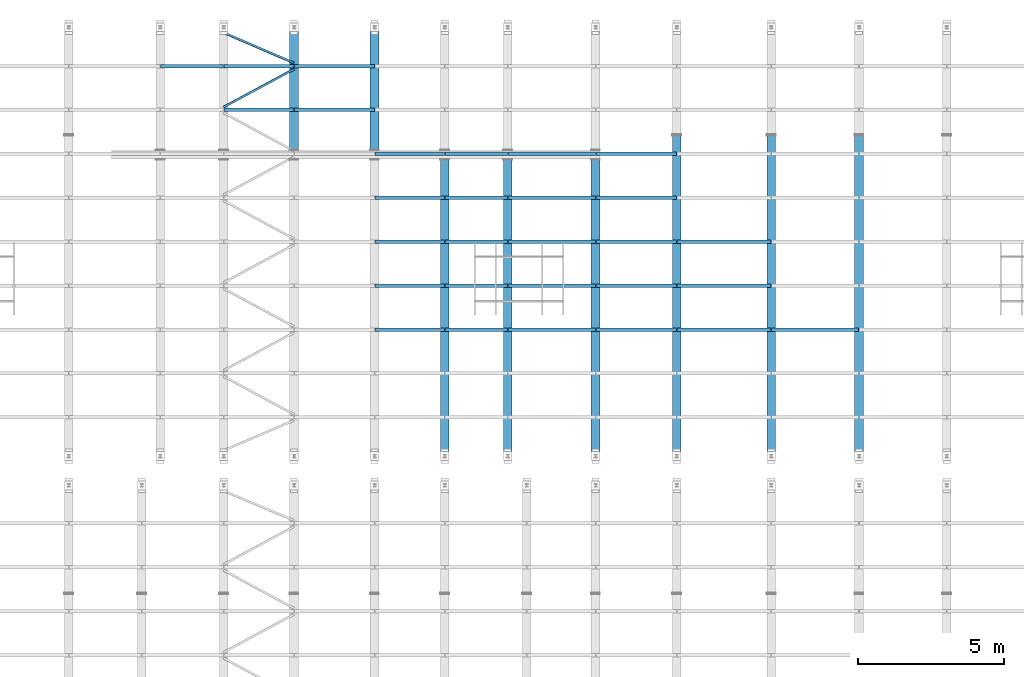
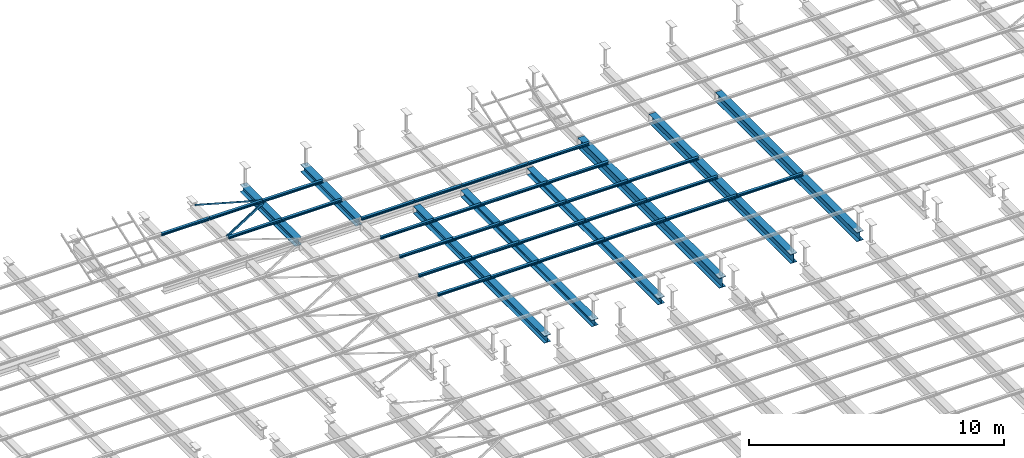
# One storey, part 84 of 139: 39 beams.
"""IFC2X3 building model written with IfcOpenShell, lengths in metres."""

from ifc_helpers import new_model, entity, si_unit, converted_unit, derived_unit, frame, origin, place, context, subcontext, project, spatial, polyline, outline, extrude, material, element, save


model = new_model("IFC2X3")

# Units and contexts
model_context = context("Model", 3, precision=1e-05, world=origin())
body_context = subcontext(model_context, "Body", "Model", "MODEL_VIEW")
ifc_project = project(units=[si_unit("LENGTHUNIT", "METRE"), si_unit("AREAUNIT", "SQUARE_METRE"), si_unit("VOLUMEUNIT", "CUBIC_METRE"), si_unit("MASSUNIT", "GRAM", prefix="KILO"), converted_unit("PLANEANGLEUNIT", "DEGREE", entity("IfcPlaneAngleMeasure", 0.0174532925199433), si_unit("PLANEANGLEUNIT", "RADIAN"), dimensions=[0, 0, 0, 0, 0, 0, 0]), derived_unit("THERMALTRANSMITTANCEUNIT", [(si_unit("POWERUNIT", "WATT"), 1), (si_unit("THERMODYNAMICTEMPERATUREUNIT", "KELVIN"), -1), (si_unit("LENGTHUNIT", "METRE"), -2)]), derived_unit("VOLUMETRICFLOWRATEUNIT", [(si_unit("LENGTHUNIT", "METRE"), 3), (converted_unit("TIMEUNIT", "hour", entity("IfcTimeMeasure", 3600.0), si_unit("TIMEUNIT", "SECOND"), dimensions=[0, 0, 1, 0, 0, 0, 0]), -1), (si_unit("LENGTHUNIT", "METRE"), -1)])], contexts=[model_context])

# Site, building, storey
site_placement = place(None, origin())
site = spatial("IfcSite", under=ifc_project, at=site_placement, Name="TWP_Speiseverteilzentrum SBW VZ II", CompositionType="ELEMENT")
building_placement = place(site_placement, origin())
building = spatial("IfcBuilding", under=site, at=building_placement, Name="Speiseverteilzentrum SBW VZ II", CompositionType="ELEMENT")
storey_placement = place(building_placement, frame((0.0, 0.0, 7.1307)))
storey = spatial("IfcBuildingStorey", under=building, at=storey_placement, Name="Wartung_FFB", CompositionType="ELEMENT", Elevation=7.1307)

# Beams
ifc_material_1 = material(Name="S235")
beam_1_placement = place(storey_placement, frame((86.7500000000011, 85.7000000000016, -0.365), z_axis=(0.0, 0.0, 1.0), x_axis=(-1.0, 0.0, 0.0)))
element("IfcBeam", 1, at=beam_1_placement, inside=storey, material=ifc_material_1, Name="Stahlträger", context=body_context, shape_type="SweptSolid", body=[
    extrude(outline(polyline([(-0.15, 0.175), (-0.15, 0.1575), (-0.00500000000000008, 0.1575), (-0.0050000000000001, -0.1575), (-0.15, -0.1575), (-0.15, -0.175), (0.15, -0.175), (0.15, -0.1575), (0.0049999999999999, -0.1575), (0.00499999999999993, 0.1575), (0.15, 0.1575), (0.15, 0.175), (-0.15, 0.175)])), frame((0.0, 0.0, 0.0), z_axis=(0.0, 1.0, 0.0), x_axis=(-1.0, 0.0, 0.0)), (0.0, 0.0, 1.0), 4.32558461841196),
])
ifc_material_2 = material(Name="S235")
beam_2_placement = place(storey_placement, frame((89.5000000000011, 85.7000000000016, -0.365), z_axis=(0.0, 0.0, 1.0), x_axis=(-1.0, 0.0, 0.0)))
element("IfcBeam", 2, at=beam_2_placement, inside=storey, material=ifc_material_2, Name="Stahlträger", context=body_context, shape_type="SweptSolid", body=[
    extrude(outline(polyline([(-0.15, 0.175), (-0.15, 0.1575), (-0.00500000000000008, 0.1575), (-0.0050000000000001, -0.1575), (-0.15, -0.1575), (-0.15, -0.175), (0.15, -0.175), (0.15, -0.1575), (0.0049999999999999, -0.1575), (0.00499999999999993, 0.1575), (0.15, 0.1575), (0.15, 0.175), (-0.15, 0.175)])), frame((0.0, 0.0, 0.0), z_axis=(0.0, 1.0, 0.0), x_axis=(-1.0, 0.0, 0.0)), (0.0, 0.0, 1.0), 4.32558461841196),
])
ifc_material_3 = material(Name="S235")
beam_3_placement = place(storey_placement, frame((91.9000000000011, 81.0244153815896, -0.365), z_axis=(0.0, 0.0, 1.0), x_axis=(-1.0, 0.0, 0.0)))
element("IfcBeam", 3, at=beam_3_placement, inside=storey, material=ifc_material_3, Name="Stahlträger", context=body_context, shape_type="SweptSolid", body=[
    extrude(outline(polyline([(-0.15, 0.175), (-0.15, 0.1575), (-0.00500000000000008, 0.1575), (-0.0050000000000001, -0.1575), (-0.15, -0.1575), (-0.15, -0.175), (0.15, -0.175), (0.15, -0.1575), (0.0049999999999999, -0.1575), (0.00499999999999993, 0.1575), (0.15, 0.1575), (0.15, 0.175), (-0.15, 0.175)])), frame((0.0, 0.0, 0.0), z_axis=(0.0, 1.0, 0.0), x_axis=(-1.0, 0.0, 0.0)), (0.0, 0.0, 1.0), 10.272162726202),
])
ifc_material_4 = material(Name="S235")
beam_4_placement = place(storey_placement, frame((94.0500000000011, 70.7522526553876, -0.345), z_axis=(0.0, 0.0, 1.0), x_axis=(1.0, -2.44929359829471e-16, 0.0)))
element("IfcBeam", 4, at=beam_4_placement, inside=storey, material=ifc_material_4, Name="Stahlträger", context=body_context, shape_type="SweptSolid", body=[
    extrude(outline(polyline([(-0.15, 0.155), (-0.15, 0.1395), (-0.00449999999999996, 0.1395), (-0.00449999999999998, -0.1395), (-0.15, -0.1395), (-0.15, -0.155), (0.15, -0.155), (0.15, -0.1395), (0.00450000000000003, -0.1395), (0.00450000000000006, 0.1395), (0.15, 0.1395), (0.15, 0.155), (-0.15, 0.155)])), frame((0.0, 0.0, 0.0), z_axis=(0.0, 1.0, 0.0), x_axis=(-1.0, 0.0, 0.0)), (0.0, 0.0, 1.0), 10.272162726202),
])
ifc_material_5 = material(Name="S235")
beam_5_placement = place(storey_placement, frame((97.0500000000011, 70.7522526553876, -0.345), z_axis=(0.0, 0.0, 1.0), x_axis=(1.0, -2.44929359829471e-16, 0.0)))
element("IfcBeam", 5, at=beam_5_placement, inside=storey, material=ifc_material_5, Name="Stahlträger", context=body_context, shape_type="SweptSolid", body=[
    extrude(outline(polyline([(-0.15, 0.155), (-0.15, 0.1395), (-0.00449999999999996, 0.1395), (-0.00449999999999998, -0.1395), (-0.15, -0.1395), (-0.15, -0.155), (0.15, -0.155), (0.15, -0.1395), (0.00450000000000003, -0.1395), (0.00450000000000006, 0.1395), (0.15, 0.1395), (0.15, 0.155), (-0.15, 0.155)])), frame((0.0, 0.0, 0.0), z_axis=(0.0, 1.0, 0.0), x_axis=(-1.0, 0.0, 0.0)), (0.0, 0.0, 1.0), 10.272162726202),
])
ifc_material_6 = material(Name="S235")
beam_6_placement = place(storey_placement, frame((103.050000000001, 70.7522526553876, -0.41), z_axis=(0.0, 0.0, 1.0), x_axis=(1.0, -2.44929359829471e-16, 0.0)))
element("IfcBeam", 6, at=beam_6_placement, inside=storey, material=ifc_material_6, Name="Stahlträger", context=body_context, shape_type="SweptSolid", body=[
    extrude(outline(polyline([(-0.15, 0.22), (-0.15, 0.199), (-0.00574999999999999, 0.199), (-0.00575000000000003, -0.199), (-0.15, -0.199), (-0.15, -0.22), (0.15, -0.22), (0.15, -0.199), (0.00574999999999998, -0.199), (0.00575000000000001, 0.199), (0.15, 0.199), (0.15, 0.22), (-0.15, 0.22)])), frame((0.0, 0.0, 0.0), z_axis=(0.0, 1.0, 0.0), x_axis=(-1.0, 0.0, 0.0)), (0.0, 0.0, 1.0), 11.090747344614),
])
ifc_material_7 = material(Name="S235")
beam_7_placement = place(storey_placement, frame((106.050000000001, 70.7522526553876, -0.41), z_axis=(0.0, 0.0, 1.0), x_axis=(1.0, -2.44929359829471e-16, 0.0)))
element("IfcBeam", 7, at=beam_7_placement, inside=storey, material=ifc_material_7, Name="Stahlträger", context=body_context, shape_type="SweptSolid", body=[
    extrude(outline(polyline([(-0.15, 0.22), (-0.15, 0.199), (-0.00574999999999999, 0.199), (-0.00575000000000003, -0.199), (-0.15, -0.199), (-0.15, -0.22), (0.15, -0.22), (0.15, -0.199), (0.00574999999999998, -0.199), (0.00575000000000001, 0.199), (0.15, 0.199), (0.15, 0.22), (-0.15, 0.22)])), frame((0.0, 0.0, 0.0), z_axis=(0.0, 1.0, 0.0), x_axis=(-1.0, 0.0, 0.0)), (0.0, 0.0, 1.0), 11.090747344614),
])
ifc_material_8 = material(Name="S235")
beam_8_placement = place(storey_placement, frame((99.8200000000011, 81.8430000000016, -0.435), z_axis=(0.0, 0.0, 1.0), x_axis=(-1.0, 0.0, 0.0)))
element("IfcBeam", 8, at=beam_8_placement, inside=storey, material=ifc_material_8, Name="Stahlträger", context=body_context, shape_type="SweptSolid", body=[
    extrude(outline(polyline([(-0.15, 0.245), (-0.15, 0.222), (-0.00599999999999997, 0.222), (-0.006, -0.222), (-0.15, -0.222), (-0.15, -0.245), (0.15, -0.245), (0.15, -0.222), (0.00600000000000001, -0.222), (0.00600000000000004, 0.222), (0.15, 0.222), (0.15, 0.245), (-0.15, 0.245)])), frame((0.0, 0.0, 0.0), z_axis=(0.0, 1.0, 0.0), x_axis=(-1.0, 0.0, 0.0)), (0.0, 0.0, 1.0), 11.090747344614),
])
ifc_material_9 = material(Name="S235")
beam_9_placement = place(storey_placement, frame((94.0600000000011, 81.2261263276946, -0.133), z_axis=(0.0, 0.0, 1.0), x_axis=(0.0, -1.0, 0.0)))
element("IfcBeam", 9, at=beam_9_placement, inside=storey, material=ifc_material_9, Name="Nebenträger", context=body_context, shape_type="SweptSolid", body=[
    extrude(outline(polyline([(-0.06, 0.0570000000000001), (-0.06, 0.0490000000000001), (-0.00249999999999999, 0.0490000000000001), (-0.0025, -0.0489999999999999), (-0.06, -0.0489999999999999), (-0.06, -0.0569999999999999), (0.06, -0.0569999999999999), (0.06, -0.0489999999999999), (0.0025, -0.0489999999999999), (0.00250000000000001, 0.0490000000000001), (0.06, 0.0490000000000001), (0.06, 0.0570000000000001), (-0.06, 0.0570000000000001)])), frame((0.0, 0.0, 0.0), z_axis=(0.0, 1.0, 0.0), x_axis=(-1.0, 0.0, 0.0)), (0.0, 0.0, 1.0), 2.98),
])
ifc_material_10 = material(Name="S235")
beam_10_placement = place(storey_placement, frame((94.0600000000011, 79.7261263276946, -0.133), z_axis=(0.0, 0.0, 1.0), x_axis=(0.0, -1.0, 0.0)))
element("IfcBeam", 10, at=beam_10_placement, inside=storey, material=ifc_material_10, Name="Nebenträger", context=body_context, shape_type="SweptSolid", body=[
    extrude(outline(polyline([(-0.06, 0.0570000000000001), (-0.06, 0.0490000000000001), (-0.00249999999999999, 0.0490000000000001), (-0.0025, -0.0489999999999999), (-0.06, -0.0489999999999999), (-0.06, -0.0569999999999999), (0.06, -0.0569999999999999), (0.06, -0.0489999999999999), (0.0025, -0.0489999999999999), (0.00250000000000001, 0.0490000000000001), (0.06, 0.0490000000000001), (0.06, 0.0570000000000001), (-0.06, 0.0570000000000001)])), frame((0.0, 0.0, 0.0), z_axis=(0.0, 1.0, 0.0), x_axis=(-1.0, 0.0, 0.0)), (0.0, 0.0, 1.0), 2.98),
])
ifc_material_11 = material(Name="S235")
beam_11_placement = place(storey_placement, frame((94.0600000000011, 78.2261263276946, -0.133), z_axis=(0.0, 0.0, 1.0), x_axis=(0.0, -1.0, 0.0)))
element("IfcBeam", 11, at=beam_11_placement, inside=storey, material=ifc_material_11, Name="Nebenträger", context=body_context, shape_type="SweptSolid", body=[
    extrude(outline(polyline([(-0.06, 0.0570000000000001), (-0.06, 0.0490000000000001), (-0.00249999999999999, 0.0490000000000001), (-0.0025, -0.0489999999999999), (-0.06, -0.0489999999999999), (-0.06, -0.0569999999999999), (0.06, -0.0569999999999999), (0.06, -0.0489999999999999), (0.0025, -0.0489999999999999), (0.00250000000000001, 0.0490000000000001), (0.06, 0.0490000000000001), (0.06, 0.0570000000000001), (-0.06, 0.0570000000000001)])), frame((0.0, 0.0, 0.0), z_axis=(0.0, 1.0, 0.0), x_axis=(-1.0, 0.0, 0.0)), (0.0, 0.0, 1.0), 2.98),
])
ifc_material_12 = material(Name="S235")
beam_12_placement = place(storey_placement, frame((94.0600000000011, 76.7261263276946, -0.133), z_axis=(0.0, 0.0, 1.0), x_axis=(0.0, -1.0, 0.0)))
element("IfcBeam", 12, at=beam_12_placement, inside=storey, material=ifc_material_12, Name="Nebenträger", context=body_context, shape_type="SweptSolid", body=[
    extrude(outline(polyline([(-0.06, 0.0570000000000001), (-0.06, 0.0490000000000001), (-0.00249999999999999, 0.0490000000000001), (-0.0025, -0.0489999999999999), (-0.06, -0.0489999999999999), (-0.06, -0.0569999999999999), (0.06, -0.0569999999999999), (0.06, -0.0489999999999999), (0.0025, -0.0489999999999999), (0.00250000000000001, 0.0490000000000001), (0.06, 0.0490000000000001), (0.06, 0.0570000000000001), (-0.06, 0.0570000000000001)])), frame((0.0, 0.0, 0.0), z_axis=(0.0, 1.0, 0.0), x_axis=(-1.0, 0.0, 0.0)), (0.0, 0.0, 1.0), 2.98),
])
ifc_material_13 = material(Name="S235")
beam_13_placement = place(storey_placement, frame((94.0600000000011, 75.2261263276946, -0.133), z_axis=(0.0, 0.0, 1.0), x_axis=(0.0, -1.0, 0.0)))
element("IfcBeam", 13, at=beam_13_placement, inside=storey, material=ifc_material_13, Name="Nebenträger", context=body_context, shape_type="SweptSolid", body=[
    extrude(outline(polyline([(-0.06, 0.0570000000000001), (-0.06, 0.0490000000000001), (-0.00249999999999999, 0.0490000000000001), (-0.0025, -0.0489999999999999), (-0.06, -0.0489999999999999), (-0.06, -0.0569999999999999), (0.06, -0.0569999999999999), (0.06, -0.0489999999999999), (0.0025, -0.0489999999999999), (0.00250000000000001, 0.0490000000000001), (0.06, 0.0490000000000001), (0.06, 0.0570000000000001), (-0.06, 0.0570000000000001)])), frame((0.0, 0.0, 0.0), z_axis=(0.0, 1.0, 0.0), x_axis=(-1.0, 0.0, 0.0)), (0.0, 0.0, 1.0), 2.98),
])
ifc_material_14 = material(Name="S235")
beam_14_placement = place(storey_placement, frame((103.060000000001, 75.2261263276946, -0.133), z_axis=(0.0, 0.0, 1.0), x_axis=(0.0, -1.0, 0.0)))
element("IfcBeam", 14, at=beam_14_placement, inside=storey, material=ifc_material_14, Name="Nebenträger", context=body_context, shape_type="SweptSolid", body=[
    extrude(outline(polyline([(-0.06, 0.0570000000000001), (-0.06, 0.0490000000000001), (-0.00249999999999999, 0.0490000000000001), (-0.0025, -0.0489999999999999), (-0.06, -0.0489999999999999), (-0.06, -0.0569999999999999), (0.06, -0.0569999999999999), (0.06, -0.0489999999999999), (0.0025, -0.0489999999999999), (0.00250000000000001, 0.0490000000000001), (0.06, 0.0490000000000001), (0.06, 0.0570000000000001), (-0.06, 0.0570000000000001)])), frame((0.0, 0.0, 0.0), z_axis=(0.0, 1.0, 0.0), x_axis=(-1.0, 0.0, 0.0)), (0.0, 0.0, 1.0), 2.98),
])
ifc_material_15 = material(Name="S235")
beam_15_placement = place(storey_placement, frame((91.9100000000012, 81.2261263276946, -0.133), z_axis=(0.0, 0.0, 1.0), x_axis=(0.0, -1.0, 0.0)))
element("IfcBeam", 15, at=beam_15_placement, inside=storey, material=ifc_material_15, Name="Nebenträger", context=body_context, shape_type="SweptSolid", body=[
    extrude(outline(polyline([(-0.06, 0.0570000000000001), (-0.06, 0.0490000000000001), (-0.00249999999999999, 0.0490000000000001), (-0.0025, -0.0489999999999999), (-0.06, -0.0489999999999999), (-0.06, -0.0569999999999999), (0.06, -0.0569999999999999), (0.06, -0.0489999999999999), (0.0025, -0.0489999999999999), (0.00250000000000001, 0.0490000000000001), (0.06, 0.0490000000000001), (0.06, 0.0570000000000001), (-0.06, 0.0570000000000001)])), frame((0.0, 0.0, 0.0), z_axis=(0.0, 1.0, 0.0), x_axis=(-1.0, 0.0, 0.0)), (0.0, 0.0, 1.0), 2.12999999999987),
])
ifc_material_16 = material(Name="S235")
beam_16_placement = place(storey_placement, frame((91.9100000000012, 79.7261263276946, -0.133), z_axis=(0.0, 0.0, 1.0), x_axis=(0.0, -1.0, 0.0)))
element("IfcBeam", 16, at=beam_16_placement, inside=storey, material=ifc_material_16, Name="Nebenträger", context=body_context, shape_type="SweptSolid", body=[
    extrude(outline(polyline([(-0.06, 0.0570000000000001), (-0.06, 0.0490000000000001), (-0.00249999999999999, 0.0490000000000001), (-0.0025, -0.0489999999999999), (-0.06, -0.0489999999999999), (-0.06, -0.0569999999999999), (0.06, -0.0569999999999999), (0.06, -0.0489999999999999), (0.0025, -0.0489999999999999), (0.00250000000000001, 0.0490000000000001), (0.06, 0.0490000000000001), (0.06, 0.0570000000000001), (-0.06, 0.0570000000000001)])), frame((0.0, 0.0, 0.0), z_axis=(0.0, 1.0, 0.0), x_axis=(-1.0, 0.0, 0.0)), (0.0, 0.0, 1.0), 2.12999999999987),
])
ifc_material_17 = material(Name="S235")
beam_17_placement = place(storey_placement, frame((91.9100000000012, 78.2261263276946, -0.133), z_axis=(0.0, 0.0, 1.0), x_axis=(0.0, -1.0, 0.0)))
element("IfcBeam", 17, at=beam_17_placement, inside=storey, material=ifc_material_17, Name="Nebenträger", context=body_context, shape_type="SweptSolid", body=[
    extrude(outline(polyline([(-0.06, 0.0570000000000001), (-0.06, 0.0490000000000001), (-0.00249999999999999, 0.0490000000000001), (-0.0025, -0.0489999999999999), (-0.06, -0.0489999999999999), (-0.06, -0.0569999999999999), (0.06, -0.0569999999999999), (0.06, -0.0489999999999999), (0.0025, -0.0489999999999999), (0.00250000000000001, 0.0490000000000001), (0.06, 0.0490000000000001), (0.06, 0.0570000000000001), (-0.06, 0.0570000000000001)])), frame((0.0, 0.0, 0.0), z_axis=(0.0, 1.0, 0.0), x_axis=(-1.0, 0.0, 0.0)), (0.0, 0.0, 1.0), 2.12999999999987),
])
ifc_material_18 = material(Name="S235")
beam_18_placement = place(storey_placement, frame((91.9100000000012, 76.7261263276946, -0.133), z_axis=(0.0, 0.0, 1.0), x_axis=(0.0, -1.0, 0.0)))
element("IfcBeam", 18, at=beam_18_placement, inside=storey, material=ifc_material_18, Name="Nebenträger", context=body_context, shape_type="SweptSolid", body=[
    extrude(outline(polyline([(-0.06, 0.0570000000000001), (-0.06, 0.0490000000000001), (-0.00249999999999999, 0.0490000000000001), (-0.0025, -0.0489999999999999), (-0.06, -0.0489999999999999), (-0.06, -0.0569999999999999), (0.06, -0.0569999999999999), (0.06, -0.0489999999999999), (0.0025, -0.0489999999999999), (0.00250000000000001, 0.0490000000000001), (0.06, 0.0490000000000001), (0.06, 0.0570000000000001), (-0.06, 0.0570000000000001)])), frame((0.0, 0.0, 0.0), z_axis=(0.0, 1.0, 0.0), x_axis=(-1.0, 0.0, 0.0)), (0.0, 0.0, 1.0), 2.12999999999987),
])
ifc_material_19 = material(Name="S235")
beam_19_placement = place(storey_placement, frame((91.9100000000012, 75.2261263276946, -0.133), z_axis=(0.0, 0.0, 1.0), x_axis=(0.0, -1.0, 0.0)))
element("IfcBeam", 19, at=beam_19_placement, inside=storey, material=ifc_material_19, Name="Nebenträger", context=body_context, shape_type="SweptSolid", body=[
    extrude(outline(polyline([(-0.06, 0.0570000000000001), (-0.06, 0.0490000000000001), (-0.00249999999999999, 0.0490000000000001), (-0.0025, -0.0489999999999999), (-0.06, -0.0489999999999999), (-0.06, -0.0569999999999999), (0.06, -0.0569999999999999), (0.06, -0.0489999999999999), (0.0025, -0.0489999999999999), (0.00250000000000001, 0.0490000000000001), (0.06, 0.0490000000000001), (0.06, 0.0570000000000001), (-0.06, 0.0570000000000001)])), frame((0.0, 0.0, 0.0), z_axis=(0.0, 1.0, 0.0), x_axis=(-1.0, 0.0, 0.0)), (0.0, 0.0, 1.0), 2.12999999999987),
])
ifc_material_20 = material(Name="S235")
beam_20_placement = place(storey_placement, frame((89.5100000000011, 81.2261263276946, -0.133), z_axis=(0.0, 0.0, 1.0), x_axis=(0.0, -1.0, 0.0)))
element("IfcBeam", 20, at=beam_20_placement, inside=storey, material=ifc_material_20, Name="Nebenträger", context=body_context, shape_type="SweptSolid", body=[
    extrude(outline(polyline([(-0.06, 0.0570000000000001), (-0.06, 0.0490000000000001), (-0.00249999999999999, 0.0490000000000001), (-0.0025, -0.0489999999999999), (-0.06, -0.0489999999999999), (-0.06, -0.0569999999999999), (0.06, -0.0569999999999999), (0.06, -0.0489999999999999), (0.0025, -0.0489999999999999), (0.00250000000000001, 0.0490000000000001), (0.06, 0.0490000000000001), (0.06, 0.0570000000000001), (-0.06, 0.0570000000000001)])), frame((0.0, 0.0, 0.0), z_axis=(0.0, 1.0, 0.0), x_axis=(-1.0, 0.0, 0.0)), (0.0, 0.0, 1.0), 2.38000000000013),
])
ifc_material_21 = material(Name="S235")
beam_21_placement = place(storey_placement, frame((89.5100000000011, 79.7261263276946, -0.133), z_axis=(0.0, 0.0, 1.0), x_axis=(0.0, -1.0, 0.0)))
element("IfcBeam", 21, at=beam_21_placement, inside=storey, material=ifc_material_21, Name="Nebenträger", context=body_context, shape_type="SweptSolid", body=[
    extrude(outline(polyline([(-0.06, 0.0570000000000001), (-0.06, 0.0490000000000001), (-0.00249999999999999, 0.0490000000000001), (-0.0025, -0.0489999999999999), (-0.06, -0.0489999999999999), (-0.06, -0.0569999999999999), (0.06, -0.0569999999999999), (0.06, -0.0489999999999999), (0.0025, -0.0489999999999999), (0.00250000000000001, 0.0490000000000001), (0.06, 0.0490000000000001), (0.06, 0.0570000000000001), (-0.06, 0.0570000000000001)])), frame((0.0, 0.0, 0.0), z_axis=(0.0, 1.0, 0.0), x_axis=(-1.0, 0.0, 0.0)), (0.0, 0.0, 1.0), 2.38000000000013),
])
ifc_material_22 = material(Name="S235")
beam_22_placement = place(storey_placement, frame((89.5100000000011, 78.2261263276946, -0.133), z_axis=(0.0, 0.0, 1.0), x_axis=(0.0, -1.0, 0.0)))
element("IfcBeam", 22, at=beam_22_placement, inside=storey, material=ifc_material_22, Name="Nebenträger", context=body_context, shape_type="SweptSolid", body=[
    extrude(outline(polyline([(-0.06, 0.0570000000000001), (-0.06, 0.0490000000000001), (-0.00249999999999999, 0.0490000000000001), (-0.0025, -0.0489999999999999), (-0.06, -0.0489999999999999), (-0.06, -0.0569999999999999), (0.06, -0.0569999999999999), (0.06, -0.0489999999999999), (0.0025, -0.0489999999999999), (0.00250000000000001, 0.0490000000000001), (0.06, 0.0490000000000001), (0.06, 0.0570000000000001), (-0.06, 0.0570000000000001)])), frame((0.0, 0.0, 0.0), z_axis=(0.0, 1.0, 0.0), x_axis=(-1.0, 0.0, 0.0)), (0.0, 0.0, 1.0), 2.38000000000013),
])
ifc_material_23 = material(Name="S235")
beam_23_placement = place(storey_placement, frame((89.5100000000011, 76.7261263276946, -0.133), z_axis=(0.0, 0.0, 1.0), x_axis=(0.0, -1.0, 0.0)))
element("IfcBeam", 23, at=beam_23_placement, inside=storey, material=ifc_material_23, Name="Nebenträger", context=body_context, shape_type="SweptSolid", body=[
    extrude(outline(polyline([(-0.06, 0.0570000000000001), (-0.06, 0.0490000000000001), (-0.00249999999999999, 0.0490000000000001), (-0.0025, -0.0489999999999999), (-0.06, -0.0489999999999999), (-0.06, -0.0569999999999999), (0.06, -0.0569999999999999), (0.06, -0.0489999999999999), (0.0025, -0.0489999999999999), (0.00250000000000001, 0.0490000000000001), (0.06, 0.0490000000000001), (0.06, 0.0570000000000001), (-0.06, 0.0570000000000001)])), frame((0.0, 0.0, 0.0), z_axis=(0.0, 1.0, 0.0), x_axis=(-1.0, 0.0, 0.0)), (0.0, 0.0, 1.0), 2.38000000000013),
])
ifc_material_24 = material(Name="S235")
beam_24_placement = place(storey_placement, frame((89.5100000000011, 75.2261263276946, -0.133), z_axis=(0.0, 0.0, 1.0), x_axis=(0.0, -1.0, 0.0)))
element("IfcBeam", 24, at=beam_24_placement, inside=storey, material=ifc_material_24, Name="Nebenträger", context=body_context, shape_type="SweptSolid", body=[
    extrude(outline(polyline([(-0.06, 0.0570000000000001), (-0.06, 0.0490000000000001), (-0.00249999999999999, 0.0490000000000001), (-0.0025, -0.0489999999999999), (-0.06, -0.0489999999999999), (-0.06, -0.0569999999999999), (0.06, -0.0569999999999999), (0.06, -0.0489999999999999), (0.0025, -0.0489999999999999), (0.00250000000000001, 0.0490000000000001), (0.06, 0.0490000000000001), (0.06, 0.0570000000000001), (-0.06, 0.0570000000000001)])), frame((0.0, 0.0, 0.0), z_axis=(0.0, 1.0, 0.0), x_axis=(-1.0, 0.0, 0.0)), (0.0, 0.0, 1.0), 2.38000000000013),
])
ifc_material_25 = material(Name="S235")
beam_25_placement = place(storey_placement, frame((86.7600000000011, 84.2261263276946, -0.133), z_axis=(0.0, 0.0, 1.0), x_axis=(0.0, -1.0, 0.0)))
element("IfcBeam", 25, at=beam_25_placement, inside=storey, material=ifc_material_25, Name="Nebenträger", context=body_context, shape_type="SweptSolid", body=[
    extrude(outline(polyline([(-0.06, 0.0570000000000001), (-0.06, 0.0490000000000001), (-0.00249999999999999, 0.0490000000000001), (-0.0025, -0.0489999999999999), (-0.06, -0.0489999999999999), (-0.06, -0.0569999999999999), (0.06, -0.0569999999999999), (0.06, -0.0489999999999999), (0.0025, -0.0489999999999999), (0.00250000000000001, 0.0490000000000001), (0.06, 0.0490000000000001), (0.06, 0.0570000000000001), (-0.06, 0.0570000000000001)])), frame((0.0, 0.0, 0.0), z_axis=(0.0, 1.0, 0.0), x_axis=(-1.0, 0.0, 0.0)), (0.0, 0.0, 1.0), 2.73),
])
ifc_material_26 = material(Name="S235")
beam_26_placement = place(storey_placement, frame((86.7600000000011, 82.7261263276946, -0.133), z_axis=(0.0, 0.0, 1.0), x_axis=(0.0, -1.0, 0.0)))
element("IfcBeam", 26, at=beam_26_placement, inside=storey, material=ifc_material_26, Name="Nebenträger", context=body_context, shape_type="SweptSolid", body=[
    extrude(outline(polyline([(-0.06, 0.0570000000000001), (-0.06, 0.0490000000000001), (-0.00249999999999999, 0.0490000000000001), (-0.0025, -0.0489999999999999), (-0.06, -0.0489999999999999), (-0.06, -0.0569999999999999), (0.06, -0.0569999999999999), (0.06, -0.0489999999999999), (0.0025, -0.0489999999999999), (0.00250000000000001, 0.0490000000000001), (0.06, 0.0490000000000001), (0.06, 0.0570000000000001), (-0.06, 0.0570000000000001)])), frame((0.0, 0.0, 0.0), z_axis=(0.0, 1.0, 0.0), x_axis=(-1.0, 0.0, 0.0)), (0.0, 0.0, 1.0), 2.73),
])
ifc_material_27 = material(Name="S235")
beam_27_placement = place(storey_placement, frame((84.3600000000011, 84.2261263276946, -0.133), z_axis=(0.0, 0.0, 1.0), x_axis=(0.0, -1.0, 0.0)))
element("IfcBeam", 27, at=beam_27_placement, inside=storey, material=ifc_material_27, Name="Nebenträger", context=body_context, shape_type="SweptSolid", body=[
    extrude(outline(polyline([(-0.06, 0.0570000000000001), (-0.06, 0.0490000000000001), (-0.00249999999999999, 0.0490000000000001), (-0.0025, -0.0489999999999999), (-0.06, -0.0489999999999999), (-0.06, -0.0569999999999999), (0.06, -0.0569999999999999), (0.06, -0.0489999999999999), (0.0025, -0.0489999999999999), (0.00250000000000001, 0.0490000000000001), (0.06, 0.0490000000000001), (0.06, 0.0570000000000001), (-0.06, 0.0570000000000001)])), frame((0.0, 0.0, 0.0), z_axis=(0.0, 1.0, 0.0), x_axis=(-1.0, 0.0, 0.0)), (0.0, 0.0, 1.0), 2.38),
])
ifc_material_28 = material(Name="S235")
beam_28_placement = place(storey_placement, frame((84.3600000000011, 82.7261263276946, -0.133), z_axis=(0.0, 0.0, 1.0), x_axis=(0.0, -1.0, 0.0)))
element("IfcBeam", 28, at=beam_28_placement, inside=storey, material=ifc_material_28, Name="Nebenträger", context=body_context, shape_type="SweptSolid", body=[
    extrude(outline(polyline([(-0.06, 0.0570000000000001), (-0.06, 0.0490000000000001), (-0.00249999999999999, 0.0490000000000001), (-0.0025, -0.0489999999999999), (-0.06, -0.0489999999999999), (-0.06, -0.0569999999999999), (0.06, -0.0569999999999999), (0.06, -0.0489999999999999), (0.0025, -0.0489999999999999), (0.00250000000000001, 0.0490000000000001), (0.06, 0.0490000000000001), (0.06, 0.0570000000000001), (-0.06, 0.0570000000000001)])), frame((0.0, 0.0, 0.0), z_axis=(0.0, 1.0, 0.0), x_axis=(-1.0, 0.0, 0.0)), (0.0, 0.0, 1.0), 2.38),
])
ifc_material_29 = material(Name="S235")
beam_29_placement = place(storey_placement, frame((82.1900000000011, 84.2261263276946, -0.133), z_axis=(0.0, 0.0, 1.0), x_axis=(0.0, -1.0, 0.0)))
element("IfcBeam", 29, at=beam_29_placement, inside=storey, material=ifc_material_29, Name="Nebenträger", context=body_context, shape_type="SweptSolid", body=[
    extrude(outline(polyline([(-0.06, 0.0570000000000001), (-0.06, 0.0490000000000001), (-0.00249999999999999, 0.0490000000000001), (-0.0025, -0.0489999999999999), (-0.06, -0.0489999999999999), (-0.06, -0.0569999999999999), (0.06, -0.0569999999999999), (0.06, -0.0489999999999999), (0.0025, -0.0489999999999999), (0.00250000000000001, 0.0490000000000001), (0.06, 0.0490000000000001), (0.06, 0.0570000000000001), (-0.06, 0.0570000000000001)])), frame((0.0, 0.0, 0.0), z_axis=(0.0, 1.0, 0.0), x_axis=(-1.0, 0.0, 0.0)), (0.0, 0.0, 1.0), 2.15),
])
ifc_material_30 = material(Name="S235")
beam_30_placement = place(storey_placement, frame((97.0600000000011, 81.2261263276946, -0.133), z_axis=(0.0, 0.0, 1.0), x_axis=(0.0, -1.0, 0.0)))
element("IfcBeam", 30, at=beam_30_placement, inside=storey, material=ifc_material_30, Name="Nebenträger", context=body_context, shape_type="SweptSolid", body=[
    extrude(outline(polyline([(-0.06, 0.0570000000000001), (-0.06, 0.0490000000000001), (-0.00249999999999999, 0.0490000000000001), (-0.0025, -0.0489999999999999), (-0.06, -0.0489999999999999), (-0.06, -0.0569999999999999), (0.06, -0.0569999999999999), (0.06, -0.0489999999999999), (0.0025, -0.0489999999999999), (0.00250000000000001, 0.0490000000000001), (0.06, 0.0490000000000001), (0.06, 0.0570000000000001), (-0.06, 0.0570000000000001)])), frame((0.0, 0.0, 0.0), z_axis=(0.0, 1.0, 0.0), x_axis=(-1.0, 0.0, 0.0)), (0.0, 0.0, 1.0), 2.75),
])
ifc_material_31 = material(Name="S235")
beam_31_placement = place(storey_placement, frame((97.0600000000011, 79.7261263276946, -0.133), z_axis=(0.0, 0.0, 1.0), x_axis=(0.0, -1.0, 0.0)))
element("IfcBeam", 31, at=beam_31_placement, inside=storey, material=ifc_material_31, Name="Nebenträger", context=body_context, shape_type="SweptSolid", body=[
    extrude(outline(polyline([(-0.06, 0.0570000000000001), (-0.06, 0.0490000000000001), (-0.00249999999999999, 0.0490000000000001), (-0.0025, -0.0489999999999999), (-0.06, -0.0489999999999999), (-0.06, -0.0569999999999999), (0.06, -0.0569999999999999), (0.06, -0.0489999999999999), (0.0025, -0.0489999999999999), (0.00250000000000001, 0.0490000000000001), (0.06, 0.0490000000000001), (0.06, 0.0570000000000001), (-0.06, 0.0570000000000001)])), frame((0.0, 0.0, 0.0), z_axis=(0.0, 1.0, 0.0), x_axis=(-1.0, 0.0, 0.0)), (0.0, 0.0, 1.0), 2.75),
])
ifc_material_32 = material(Name="S235")
beam_32_placement = place(storey_placement, frame((97.0600000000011, 78.2261263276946, -0.133), z_axis=(0.0, 0.0, 1.0), x_axis=(0.0, -1.0, 0.0)))
element("IfcBeam", 32, at=beam_32_placement, inside=storey, material=ifc_material_32, Name="Nebenträger", context=body_context, shape_type="SweptSolid", body=[
    extrude(outline(polyline([(-0.06, 0.0570000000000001), (-0.06, 0.0490000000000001), (-0.00249999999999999, 0.0490000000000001), (-0.0025, -0.0489999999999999), (-0.06, -0.0489999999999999), (-0.06, -0.0569999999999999), (0.06, -0.0569999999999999), (0.06, -0.0489999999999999), (0.0025, -0.0489999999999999), (0.00250000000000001, 0.0490000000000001), (0.06, 0.0490000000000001), (0.06, 0.0570000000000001), (-0.06, 0.0570000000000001)])), frame((0.0, 0.0, 0.0), z_axis=(0.0, 1.0, 0.0), x_axis=(-1.0, 0.0, 0.0)), (0.0, 0.0, 1.0), 2.75),
])
ifc_material_33 = material(Name="S235")
beam_33_placement = place(storey_placement, frame((99.8300000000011, 78.2261263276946, -0.133), z_axis=(0.0, 0.0, 1.0), x_axis=(0.0, -1.0, 0.0)))
element("IfcBeam", 33, at=beam_33_placement, inside=storey, material=ifc_material_33, Name="Nebenträger", context=body_context, shape_type="SweptSolid", body=[
    extrude(outline(polyline([(-0.06, 0.0570000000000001), (-0.06, 0.0490000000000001), (-0.00249999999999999, 0.0490000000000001), (-0.0025, -0.0489999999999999), (-0.06, -0.0489999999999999), (-0.06, -0.0569999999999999), (0.06, -0.0569999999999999), (0.06, -0.0489999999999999), (0.0025, -0.0489999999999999), (0.00250000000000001, 0.0490000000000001), (0.06, 0.0490000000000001), (0.06, 0.0570000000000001), (-0.06, 0.0570000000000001)])), frame((0.0, 0.0, 0.0), z_axis=(0.0, 1.0, 0.0), x_axis=(-1.0, 0.0, 0.0)), (0.0, 0.0, 1.0), 3.21),
])
ifc_material_34 = material(Name="S235")
beam_34_placement = place(storey_placement, frame((97.0600000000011, 76.7261263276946, -0.133), z_axis=(0.0, 0.0, 1.0), x_axis=(0.0, -1.0, 0.0)))
element("IfcBeam", 34, at=beam_34_placement, inside=storey, material=ifc_material_34, Name="Nebenträger", context=body_context, shape_type="SweptSolid", body=[
    extrude(outline(polyline([(-0.06, 0.0570000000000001), (-0.06, 0.0490000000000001), (-0.00249999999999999, 0.0490000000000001), (-0.0025, -0.0489999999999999), (-0.06, -0.0489999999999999), (-0.06, -0.0569999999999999), (0.06, -0.0569999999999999), (0.06, -0.0489999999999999), (0.0025, -0.0489999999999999), (0.00250000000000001, 0.0490000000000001), (0.06, 0.0490000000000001), (0.06, 0.0570000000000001), (-0.06, 0.0570000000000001)])), frame((0.0, 0.0, 0.0), z_axis=(0.0, 1.0, 0.0), x_axis=(-1.0, 0.0, 0.0)), (0.0, 0.0, 1.0), 2.75),
])
ifc_material_35 = material(Name="S235")
beam_35_placement = place(storey_placement, frame((99.8300000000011, 76.7261263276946, -0.133), z_axis=(0.0, 0.0, 1.0), x_axis=(0.0, -1.0, 0.0)))
element("IfcBeam", 35, at=beam_35_placement, inside=storey, material=ifc_material_35, Name="Nebenträger", context=body_context, shape_type="SweptSolid", body=[
    extrude(outline(polyline([(-0.06, 0.0570000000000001), (-0.06, 0.0490000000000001), (-0.00249999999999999, 0.0490000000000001), (-0.0025, -0.0489999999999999), (-0.06, -0.0489999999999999), (-0.06, -0.0569999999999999), (0.06, -0.0569999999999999), (0.06, -0.0489999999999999), (0.0025, -0.0489999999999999), (0.00250000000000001, 0.0490000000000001), (0.06, 0.0490000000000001), (0.06, 0.0570000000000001), (-0.06, 0.0570000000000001)])), frame((0.0, 0.0, 0.0), z_axis=(0.0, 1.0, 0.0), x_axis=(-1.0, 0.0, 0.0)), (0.0, 0.0, 1.0), 3.21),
])
ifc_material_36 = material(Name="S235")
beam_36_placement = place(storey_placement, frame((97.0600000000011, 75.2261263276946, -0.133), z_axis=(0.0, 0.0, 1.0), x_axis=(0.0, -1.0, 0.0)))
element("IfcBeam", 36, at=beam_36_placement, inside=storey, material=ifc_material_36, Name="Nebenträger", context=body_context, shape_type="SweptSolid", body=[
    extrude(outline(polyline([(-0.06, 0.0570000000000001), (-0.06, 0.0490000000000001), (-0.00249999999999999, 0.0490000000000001), (-0.0025, -0.0489999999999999), (-0.06, -0.0489999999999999), (-0.06, -0.0569999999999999), (0.06, -0.0569999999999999), (0.06, -0.0489999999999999), (0.0025, -0.0489999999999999), (0.00250000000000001, 0.0490000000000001), (0.06, 0.0490000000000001), (0.06, 0.0570000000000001), (-0.06, 0.0570000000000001)])), frame((0.0, 0.0, 0.0), z_axis=(0.0, 1.0, 0.0), x_axis=(-1.0, 0.0, 0.0)), (0.0, 0.0, 1.0), 2.75),
])
ifc_material_37 = material(Name="S235")
beam_37_placement = place(storey_placement, frame((99.8300000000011, 75.2261263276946, -0.133), z_axis=(0.0, 0.0, 1.0), x_axis=(0.0, -1.0, 0.0)))
element("IfcBeam", 37, at=beam_37_placement, inside=storey, material=ifc_material_37, Name="Nebenträger", context=body_context, shape_type="SweptSolid", body=[
    extrude(outline(polyline([(-0.06, 0.0570000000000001), (-0.06, 0.0490000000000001), (-0.00249999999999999, 0.0490000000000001), (-0.0025, -0.0489999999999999), (-0.06, -0.0489999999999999), (-0.06, -0.0569999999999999), (0.06, -0.0569999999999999), (0.06, -0.0489999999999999), (0.0025, -0.0489999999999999), (0.00250000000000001, 0.0490000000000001), (0.06, 0.0490000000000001), (0.06, 0.0570000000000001), (-0.06, 0.0570000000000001)])), frame((0.0, 0.0, 0.0), z_axis=(0.0, 1.0, 0.0), x_axis=(-1.0, 0.0, 0.0)), (0.0, 0.0, 1.0), 3.21),
])
ifc_material_38 = material(Name="S235")
beam_38_placement = place(storey_placement, frame((84.3361915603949, 82.842340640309, -0.167052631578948), z_axis=(0.0, 0.0, 1.0), x_axis=(0.474803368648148, -0.880091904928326, 0.0)))
element("IfcBeam", 38, at=beam_38_placement, inside=storey, material=ifc_material_38, Name="Kreuzverband", context=body_context, shape_type="SweptSolid", body=[
    extrude(outline(polyline([(0.0229473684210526, -0.0229473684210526), (0.0229473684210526, 0.0570526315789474), (0.0149473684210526, 0.0570526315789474), (0.0149473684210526, -0.0149473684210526), (-0.0570526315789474, -0.0149473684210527), (-0.0570526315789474, -0.0229473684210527), (0.0229473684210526, -0.0229473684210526)])), frame((0.0, 0.0, 0.0), z_axis=(0.0, 1.00000000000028, 0.0), x_axis=(-1.0, 0.0, 0.0)), (0.0, 0.0, 1.0), 2.73000000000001),
])
ifc_material_39 = material(Name="S235")
beam_39_placement = place(storey_placement, frame((84.3491424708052, 85.3431771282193, -0.167052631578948), z_axis=(0.0, 0.0, 1.0), x_axis=(-0.395614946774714, -0.918416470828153, 0.0)))
element("IfcBeam", 39, at=beam_39_placement, inside=storey, material=ifc_material_39, Name="Kreuzverband", context=body_context, shape_type="SweptSolid", body=[
    extrude(outline(polyline([(0.0570526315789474, -0.0229473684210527), (0.0570526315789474, -0.0149473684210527), (-0.0149473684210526, -0.0149473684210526), (-0.0149473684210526, 0.0570526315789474), (-0.0229473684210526, 0.0570526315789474), (-0.0229473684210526, -0.0229473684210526), (0.0570526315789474, -0.0229473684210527)])), frame((0.0, 0.0, 0.0), z_axis=(0.0, 1.00000000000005, 0.0), x_axis=(-1.0, 0.0, 0.0)), (0.0, 0.0, 1.0), 2.6),
])

save(model, "model.ifc")
